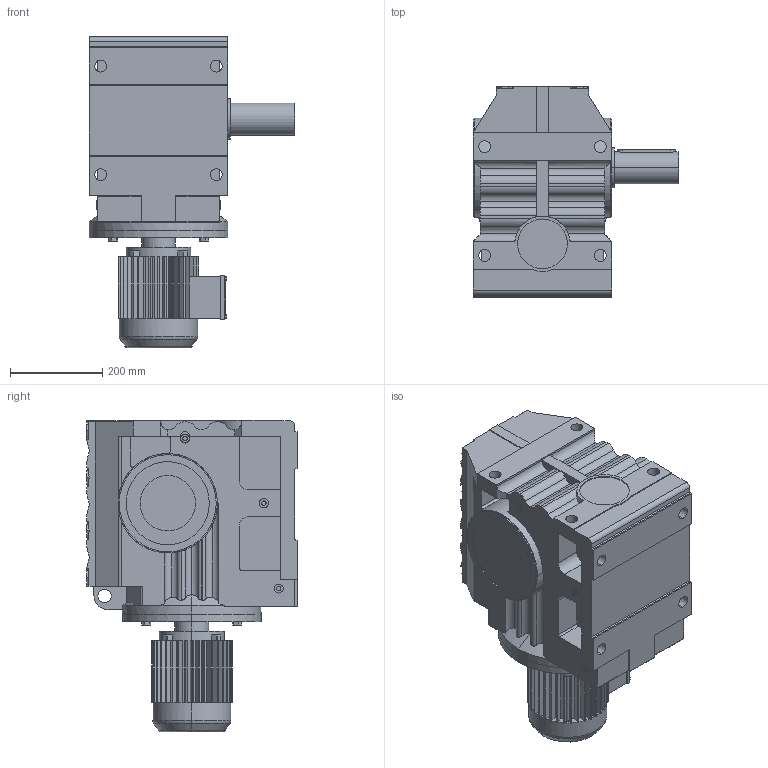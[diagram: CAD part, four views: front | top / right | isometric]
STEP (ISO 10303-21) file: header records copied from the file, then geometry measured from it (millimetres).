
FILE_DESCRIPTION(('Open CASCADE Model'),'2;1');
FILE_NAME('Open CASCADE Shape Model','2021-07-20T10:56:27',('Author'),( 'Open CASCADE'),'Open CASCADE STEP processor 6.3','Open CASCADE 6.3' ,'Unknown');
FILE_SCHEMA(('AUTOMOTIVE_DESIGN_CC2 { 1 2 10303 214 -1 1 5 4 }'));
Length unit declared in the file: millimetre
Products named in the file (4): 1_S97-Y80M-A; S47‵97_97.step; 萇儂_300_Y80M.step; す瑩妗陑粣S_97_S.step
Assembly tree (3 placements, depth 2):
  1_S97-Y80M-A
    S47‵97_97.step
    萇儂_300_Y80M.step
    す瑩妗陑粣S_97_S.step
Bounding box: 445 x 455 x 675 mm (x, y, z)
Volume: 51769849.7 mm3; surface area: 1793048.7 mm2
Topology: 3 solids, 3 shells, 862 faces, 2317 edges, 1499 vertices
Faces by surface type: plane 558, cylinder 287, cone 13, torus 4
Entity records: 65786 total; most frequent: CARTESIAN_POINT 22387, DIRECTION 7348, ORIENTED_EDGE 4630, PCURVE 4630, DEFINITIONAL_REPRESENTATION 4630, LINE 3877, VECTOR 3877, EDGE_CURVE 2315
